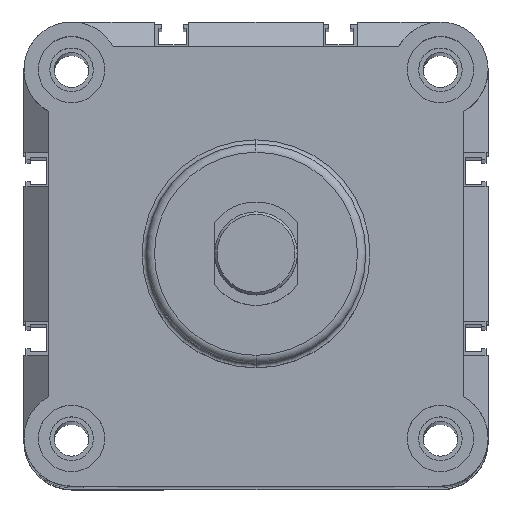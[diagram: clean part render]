
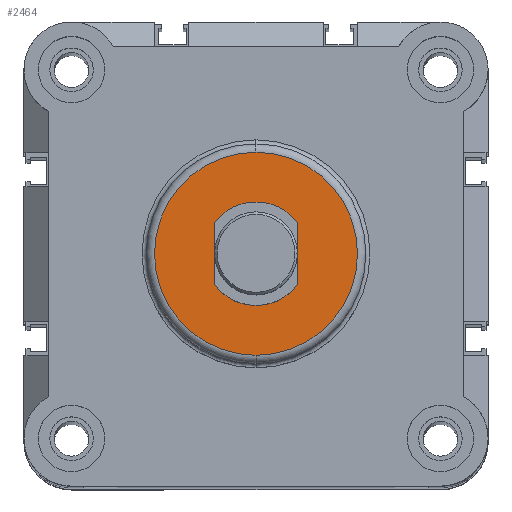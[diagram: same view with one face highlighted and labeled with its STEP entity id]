
A CAD part, top view. The second image highlights one B-rep face of the part: STEP entity #2464.
In plain terms, the highlighted planar face has unit normal (0, 0, 1) as drawn and (0, 0, -1) by its records, which use the part's own axes.
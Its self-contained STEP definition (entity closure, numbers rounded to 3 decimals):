
#281 = VERTEX_POINT ( 'NONE', #4858 ) ;
#439 = CIRCLE ( 'NONE', #7245, 24.5 ) ;
#523 = ORIENTED_EDGE ( 'NONE', *, *, #3907, .T. ) ;
#747 = EDGE_CURVE ( 'NONE', #281, #3726, #439, .T. ) ;
#849 = CARTESIAN_POINT ( 'NONE',  ( 0., 24.5, -38. ) ) ;
#882 = FACE_BOUND ( 'NONE', #8076, .T. ) ;
#1055 = CARTESIAN_POINT ( 'NONE',  ( 10., -7.5, -38. ) ) ;
#1164 = DIRECTION ( 'NONE',  ( 0., 0., -1. ) ) ;
#1263 = CARTESIAN_POINT ( 'NONE',  ( 0., 0., -38. ) ) ;
#1316 = ORIENTED_EDGE ( 'NONE', *, *, #747, .T. ) ;
#1995 = ORIENTED_EDGE ( 'NONE', *, *, #4438, .T. ) ;
#2020 = DIRECTION ( 'NONE',  ( 1., 0., 0. ) ) ;
#2158 = ORIENTED_EDGE ( 'NONE', *, *, #9416, .T. ) ;
#2464 = ADVANCED_FACE ( 'NONE', ( #7024, #882 ), #4221, .T. ) ;
#2737 = ORIENTED_EDGE ( 'NONE', *, *, #5574, .T. ) ;
#2863 = DIRECTION ( 'NONE',  ( 0., 0., -1. ) ) ;
#2876 = VERTEX_POINT ( 'NONE', #1055 ) ;
#3013 = DIRECTION ( 'NONE',  ( 0., 0., -1. ) ) ;
#3034 = CARTESIAN_POINT ( 'NONE',  ( -10., -7.5, -38. ) ) ;
#3171 = CARTESIAN_POINT ( 'NONE',  ( -10., 7.5, -38. ) ) ;
#3246 = CARTESIAN_POINT ( 'NONE',  ( 10., 7.5, -38. ) ) ;
#3438 = EDGE_CURVE ( 'NONE', #3726, #281, #7764, .T. ) ;
#3726 = VERTEX_POINT ( 'NONE', #849 ) ;
#3747 = VERTEX_POINT ( 'NONE', #3246 ) ;
#3907 = EDGE_CURVE ( 'NONE', #3747, #5974, #8008, .T. ) ;
#3946 = CARTESIAN_POINT ( 'NONE',  ( 0., 0., -38. ) ) ;
#4221 = PLANE ( 'NONE',  #9261 ) ;
#4269 = DIRECTION ( 'NONE',  ( 0., 1., 0. ) ) ;
#4438 = EDGE_CURVE ( 'NONE', #8954, #2876, #9363, .T. ) ;
#4725 = DIRECTION ( 'NONE',  ( 1., 0., 0. ) ) ;
#4858 = CARTESIAN_POINT ( 'NONE',  ( 0., -24.5, -38. ) ) ;
#5032 = CARTESIAN_POINT ( 'NONE',  ( 10., 7.5, -38. ) ) ;
#5056 = AXIS2_PLACEMENT_3D ( 'NONE', #1263, #6625, #2020 ) ;
#5161 = VECTOR ( 'NONE', #4269, 1000. ) ;
#5574 = EDGE_CURVE ( 'NONE', #5974, #8954, #8449, .T. ) ;
#5647 = LINE ( 'NONE', #5032, #5161 ) ;
#5974 = VERTEX_POINT ( 'NONE', #9018 ) ;
#6531 = DIRECTION ( 'NONE',  ( 0., 1., 0. ) ) ;
#6625 = DIRECTION ( 'NONE',  ( 0., 0., 1. ) ) ;
#6749 = EDGE_LOOP ( 'NONE', ( #9296, #1316 ) ) ;
#7024 = FACE_OUTER_BOUND ( 'NONE', #6749, .T. ) ;
#7245 = AXIS2_PLACEMENT_3D ( 'NONE', #7651, #3013, #8439 ) ;
#7492 = CARTESIAN_POINT ( 'NONE',  ( 0., 0., -38. ) ) ;
#7551 = AXIS2_PLACEMENT_3D ( 'NONE', #3946, #9430, #4725 ) ;
#7651 = CARTESIAN_POINT ( 'NONE',  ( 0., 0., -38. ) ) ;
#7764 = CIRCLE ( 'NONE', #9554, 24.5 ) ;
#8008 = CIRCLE ( 'NONE', #5056, 12.5 ) ;
#8076 = EDGE_LOOP ( 'NONE', ( #1995, #2158, #523, #2737 ) ) ;
#8092 = CARTESIAN_POINT ( 'NONE',  ( 0., 24.5, -38. ) ) ;
#8295 = DIRECTION ( 'NONE',  ( 0., 1., 0. ) ) ;
#8439 = DIRECTION ( 'NONE',  ( 0., 1., 0. ) ) ;
#8449 = LINE ( 'NONE', #3171, #8714 ) ;
#8592 = DIRECTION ( 'NONE',  ( 0., -1., 0. ) ) ;
#8714 = VECTOR ( 'NONE', #8592, 1000. ) ;
#8954 = VERTEX_POINT ( 'NONE', #3034 ) ;
#9018 = CARTESIAN_POINT ( 'NONE',  ( -10., 7.5, -38. ) ) ;
#9261 = AXIS2_PLACEMENT_3D ( 'NONE', #8092, #1164, #6531 ) ;
#9296 = ORIENTED_EDGE ( 'NONE', *, *, #3438, .T. ) ;
#9363 = CIRCLE ( 'NONE', #7551, 12.5 ) ;
#9416 = EDGE_CURVE ( 'NONE', #2876, #3747, #5647, .T. ) ;
#9430 = DIRECTION ( 'NONE',  ( 0., 0., 1. ) ) ;
#9554 = AXIS2_PLACEMENT_3D ( 'NONE', #7492, #2863, #8295 ) ;
